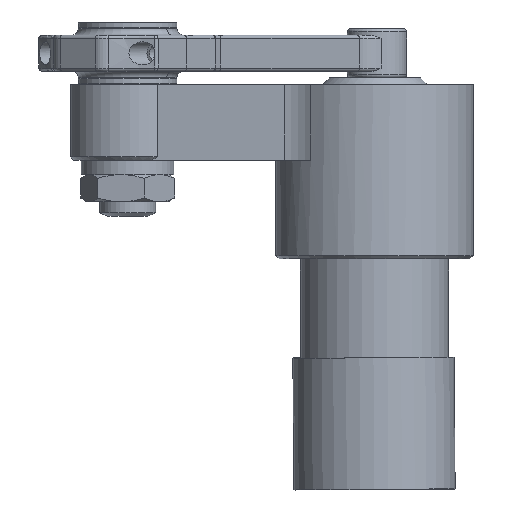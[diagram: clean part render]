
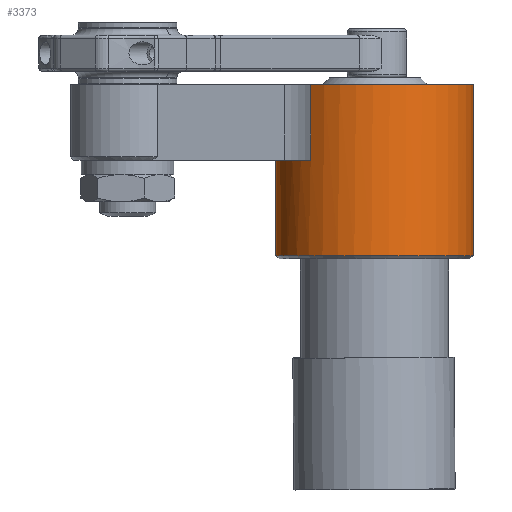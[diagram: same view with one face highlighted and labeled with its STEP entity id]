
A CAD part, front view. The second image highlights one B-rep face of the part: STEP entity #3373.
In plain terms, the highlighted cylindrical face has radius 60 mm (diameter 120 mm), a full revolution.
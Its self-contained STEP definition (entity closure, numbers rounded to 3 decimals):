
#243=CYLINDRICAL_SURFACE('',#3941,60.);
#493=FACE_OUTER_BOUND('',#714,.T.);
#714=EDGE_LOOP('',(#2854,#2855,#2856,#2857,#2858,#2859,#2860,#2861,#2862,
#2863));
#921=LINE('',#6090,#1124);
#923=LINE('',#6098,#1126);
#924=LINE('',#6107,#1127);
#1124=VECTOR('',#4829,10.);
#1126=VECTOR('',#4837,60.);
#1127=VECTOR('',#4846,10.);
#1375=CIRCLE('',#3942,60.);
#1376=CIRCLE('',#3943,60.);
#1377=CIRCLE('',#3944,60.);
#1378=CIRCLE('',#3945,60.);
#1379=CIRCLE('',#3946,60.);
#1380=CIRCLE('',#3947,60.);
#1635=VERTEX_POINT('',#6087);
#1636=VERTEX_POINT('',#6089);
#1638=VERTEX_POINT('',#6095);
#1639=VERTEX_POINT('',#6097);
#1640=VERTEX_POINT('',#6100);
#1641=VERTEX_POINT('',#6102);
#1642=VERTEX_POINT('',#6104);
#1643=VERTEX_POINT('',#6106);
#2057=EDGE_CURVE('',#1635,#1636,#921,.T.);
#2060=EDGE_CURVE('',#1638,#1638,#1375,.T.);
#2061=EDGE_CURVE('',#1638,#1639,#923,.T.);
#2062=EDGE_CURVE('',#1639,#1636,#1376,.T.);
#2063=EDGE_CURVE('',#1640,#1635,#1377,.T.);
#2064=EDGE_CURVE('',#1640,#1641,#1378,.T.);
#2065=EDGE_CURVE('',#1642,#1641,#1379,.T.);
#2066=EDGE_CURVE('',#1643,#1642,#924,.T.);
#2067=EDGE_CURVE('',#1643,#1639,#1380,.T.);
#2854=ORIENTED_EDGE('',*,*,#2060,.F.);
#2855=ORIENTED_EDGE('',*,*,#2061,.T.);
#2856=ORIENTED_EDGE('',*,*,#2062,.T.);
#2857=ORIENTED_EDGE('',*,*,#2057,.F.);
#2858=ORIENTED_EDGE('',*,*,#2063,.F.);
#2859=ORIENTED_EDGE('',*,*,#2064,.T.);
#2860=ORIENTED_EDGE('',*,*,#2065,.F.);
#2861=ORIENTED_EDGE('',*,*,#2066,.F.);
#2862=ORIENTED_EDGE('',*,*,#2067,.T.);
#2863=ORIENTED_EDGE('',*,*,#2061,.F.);
#3373=ADVANCED_FACE('',(#493),#243,.T.);
#3941=AXIS2_PLACEMENT_3D('',#6094,#4833,#4834);
#3942=AXIS2_PLACEMENT_3D('',#6096,#4835,#4836);
#3943=AXIS2_PLACEMENT_3D('',#6099,#4838,#4839);
#3944=AXIS2_PLACEMENT_3D('',#6101,#4840,#4841);
#3945=AXIS2_PLACEMENT_3D('',#6103,#4842,#4843);
#3946=AXIS2_PLACEMENT_3D('',#6105,#4844,#4845);
#3947=AXIS2_PLACEMENT_3D('',#6108,#4847,#4848);
#4829=DIRECTION('',(0.,0.,-1.));
#4833=DIRECTION('center_axis',(0.,0.,1.));
#4834=DIRECTION('ref_axis',(-0.667,0.745,0.));
#4835=DIRECTION('center_axis',(0.,0.,1.));
#4836=DIRECTION('ref_axis',(-0.667,0.745,0.));
#4837=DIRECTION('',(0.,0.,-1.));
#4838=DIRECTION('center_axis',(0.,0.,1.));
#4839=DIRECTION('ref_axis',(-0.667,0.745,0.));
#4840=DIRECTION('center_axis',(0.,0.,-1.));
#4841=DIRECTION('ref_axis',(1.,0.,0.));
#4842=DIRECTION('center_axis',(0.,0.,1.));
#4843=DIRECTION('ref_axis',(1.,0.,0.));
#4844=DIRECTION('center_axis',(0.,0.,-1.));
#4845=DIRECTION('ref_axis',(1.,0.,0.));
#4846=DIRECTION('',(0.,0.,1.));
#4847=DIRECTION('center_axis',(0.,0.,1.));
#4848=DIRECTION('ref_axis',(-0.667,0.745,0.));
#6087=CARTESIAN_POINT('',(45.768,-111.202,46.));
#6089=CARTESIAN_POINT('',(45.768,-111.202,0.));
#6090=CARTESIAN_POINT('',(45.768,-111.202,0.));
#6094=CARTESIAN_POINT('Origin',(0.,-150.,0.));
#6095=CARTESIAN_POINT('',(40.,-194.721,104.));
#6096=CARTESIAN_POINT('Origin',(0.,-150.,104.));
#6097=CARTESIAN_POINT('',(40.,-194.721,0.));
#6098=CARTESIAN_POINT('',(40.,-194.721,0.));
#6099=CARTESIAN_POINT('Origin',(0.,-150.,0.));
#6100=CARTESIAN_POINT('',(18.252,-92.844,46.));
#6101=CARTESIAN_POINT('Origin',(0.,-150.,46.));
#6102=CARTESIAN_POINT('',(-18.252,-92.844,46.));
#6103=CARTESIAN_POINT('Origin',(0.,-150.,46.));
#6104=CARTESIAN_POINT('',(-45.768,-111.202,46.));
#6105=CARTESIAN_POINT('Origin',(0.,-150.,46.));
#6106=CARTESIAN_POINT('',(-45.768,-111.202,0.));
#6107=CARTESIAN_POINT('',(-45.768,-111.202,0.));
#6108=CARTESIAN_POINT('Origin',(0.,-150.,0.));
